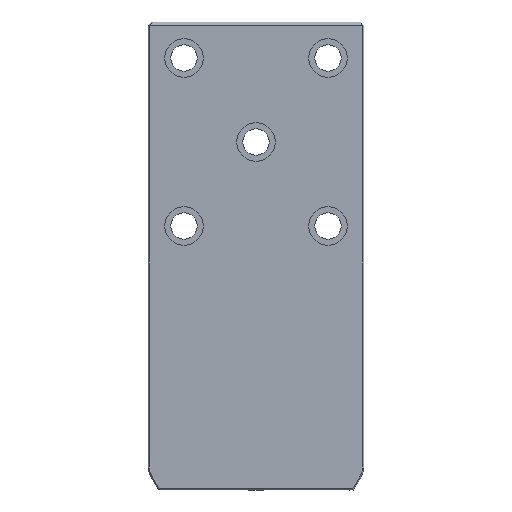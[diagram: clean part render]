
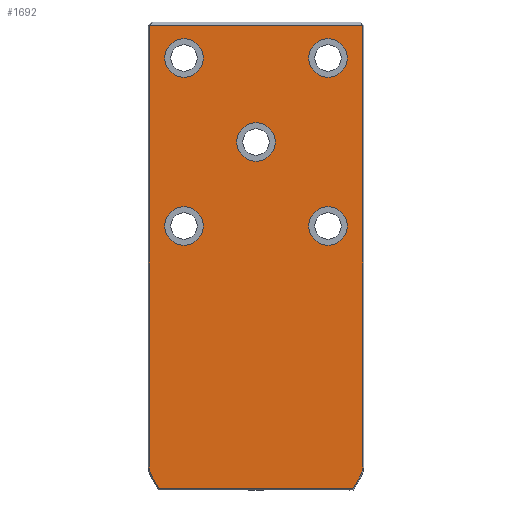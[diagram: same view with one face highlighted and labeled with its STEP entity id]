
A CAD part, front view. The second image highlights one B-rep face of the part: STEP entity #1692.
In plain terms, the highlighted planar face has unit normal (0, -1, 0).
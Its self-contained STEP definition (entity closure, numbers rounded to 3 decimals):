
#109=VERTEX_POINT(' ',#110);
#110=CARTESIAN_POINT('',(60.,-55.,-186.));
#111=VERTEX_POINT(' ',#112);
#112=CARTESIAN_POINT('',(60.,-55.,-154.));
#117=VERTEX_POINT(' ',#118);
#118=CARTESIAN_POINT('',(-60.,-55.,-46.));
#119=VERTEX_POINT(' ',#120);
#120=CARTESIAN_POINT('',(-60.,-55.,-14.));
#137=VERTEX_POINT(' ',#138);
#138=CARTESIAN_POINT('',(-60.,-55.,-186.));
#139=VERTEX_POINT(' ',#140);
#140=CARTESIAN_POINT('',(-60.,-55.,-154.));
#145=VERTEX_POINT(' ',#146);
#146=CARTESIAN_POINT('',(60.,-55.,-46.));
#147=VERTEX_POINT(' ',#148);
#148=CARTESIAN_POINT('',(60.,-55.,-14.));
#161=VERTEX_POINT(' ',#162);
#162=CARTESIAN_POINT('',(0.,-55.,-116.));
#163=VERTEX_POINT(' ',#164);
#164=CARTESIAN_POINT('',(0.,-55.,-84.));
#169=VERTEX_POINT(' ',#170);
#170=CARTESIAN_POINT('',(80.762,-55.,-389.));
#175=VERTEX_POINT(' ',#176);
#176=CARTESIAN_POINT('',(86.454,-55.,-379.141));
#179=VERTEX_POINT(' ',#180);
#180=CARTESIAN_POINT('',(89.,-55.,-369.641));
#183=VERTEX_POINT(' ',#184);
#184=CARTESIAN_POINT('',(89.,-55.,-200.));
#187=VERTEX_POINT(' ',#188);
#188=CARTESIAN_POINT('',(89.,-55.,-3.));
#193=VERTEX_POINT(' ',#194);
#194=CARTESIAN_POINT('',(-88.775,-55.,-3.));
#197=VERTEX_POINT(' ',#198);
#198=CARTESIAN_POINT('',(-89.,-55.,-3.112));
#203=VERTEX_POINT(' ',#204);
#204=CARTESIAN_POINT('',(-80.762,-55.,-389.));
#207=VERTEX_POINT(' ',#208);
#208=CARTESIAN_POINT('',(-89.,-55.,-200.));
#209=VERTEX_POINT(' ',#210);
#210=CARTESIAN_POINT('',(-89.,-55.,-369.641));
#211=VERTEX_POINT(' ',#212);
#212=CARTESIAN_POINT('',(-86.454,-55.,-379.141));
#379=CIRCLE('',#380,16.);
#380=AXIS2_PLACEMENT_3D('',#381,#382,#383);
#381=CARTESIAN_POINT('',(60.,-55.,-170.));
#382=DIRECTION('',(0.,1.,0.));
#383=DIRECTION('',(-1.,0.,0.));
#384=EDGE_CURVE(' ',#109,#111,#379,.F.);
#395=CIRCLE('',#396,16.);
#396=AXIS2_PLACEMENT_3D('',#397,#398,#399);
#397=CARTESIAN_POINT('',(60.,-55.,-170.));
#398=DIRECTION('',(0.,1.,0.));
#399=DIRECTION('',(1.,0.,0.));
#400=EDGE_CURVE(' ',#111,#109,#395,.F.);
#413=CIRCLE('',#414,16.);
#414=AXIS2_PLACEMENT_3D('',#415,#416,#417);
#415=CARTESIAN_POINT('',(-60.,-55.,-30.));
#416=DIRECTION('',(0.,1.,0.));
#417=DIRECTION('',(-1.,0.,0.));
#418=EDGE_CURVE(' ',#117,#119,#413,.F.);
#429=CIRCLE('',#430,16.);
#430=AXIS2_PLACEMENT_3D('',#431,#432,#433);
#431=CARTESIAN_POINT('',(-60.,-55.,-30.));
#432=DIRECTION('',(0.,1.,0.));
#433=DIRECTION('',(1.,0.,0.));
#434=EDGE_CURVE(' ',#119,#117,#429,.F.);
#503=CIRCLE('',#504,16.);
#504=AXIS2_PLACEMENT_3D('',#505,#506,#507);
#505=CARTESIAN_POINT('',(-60.,-55.,-170.));
#506=DIRECTION('',(0.,1.,0.));
#507=DIRECTION('',(-1.,0.,0.));
#508=EDGE_CURVE(' ',#137,#139,#503,.F.);
#525=CIRCLE('',#526,16.);
#526=AXIS2_PLACEMENT_3D('',#527,#528,#529);
#527=CARTESIAN_POINT('',(-60.,-55.,-170.));
#528=DIRECTION('',(0.,1.,0.));
#529=DIRECTION('',(1.,0.,0.));
#530=EDGE_CURVE(' ',#139,#137,#525,.F.);
#537=CIRCLE('',#538,16.);
#538=AXIS2_PLACEMENT_3D('',#539,#540,#541);
#539=CARTESIAN_POINT('',(60.,-55.,-30.));
#540=DIRECTION('',(0.,1.,0.));
#541=DIRECTION('',(-1.,0.,0.));
#542=EDGE_CURVE(' ',#145,#147,#537,.F.);
#559=CIRCLE('',#560,16.);
#560=AXIS2_PLACEMENT_3D('',#561,#562,#563);
#561=CARTESIAN_POINT('',(60.,-55.,-30.));
#562=DIRECTION('',(0.,1.,0.));
#563=DIRECTION('',(1.,0.,0.));
#564=EDGE_CURVE(' ',#147,#145,#559,.F.);
#605=CIRCLE('',#606,16.);
#606=AXIS2_PLACEMENT_3D('',#607,#608,#609);
#607=CARTESIAN_POINT('',(0.,-55.,-100.));
#608=DIRECTION('',(0.,1.,0.));
#609=DIRECTION('',(-1.,0.,0.));
#610=EDGE_CURVE(' ',#161,#163,#605,.F.);
#627=CIRCLE('',#628,16.);
#628=AXIS2_PLACEMENT_3D('',#629,#630,#631);
#629=CARTESIAN_POINT('',(0.,-55.,-100.));
#630=DIRECTION('',(0.,1.,0.));
#631=DIRECTION('',(1.,0.,0.));
#632=EDGE_CURVE(' ',#163,#161,#627,.F.);
#654=LINE('',#655,#656);
#655=CARTESIAN_POINT('',(86.454,-55.,-379.141));
#656=VECTOR('',#657,1.);
#657=DIRECTION('',(-0.5,0.,-0.866));
#658=EDGE_CURVE(' ',#175,#169,#654,.T.);
#670=CIRCLE('',#671,19.);
#671=AXIS2_PLACEMENT_3D('',#672,#673,#674);
#672=CARTESIAN_POINT('',(70.,-55.,-369.641));
#673=DIRECTION('',(0.,1.,0.));
#674=DIRECTION('',(-0.966,0.,0.259));
#675=EDGE_CURVE(' ',#179,#175,#670,.T.);
#681=LINE('',#682,#683);
#682=CARTESIAN_POINT('',(89.,-55.,-200.));
#683=VECTOR('',#684,1.);
#684=DIRECTION('',(0.,0.,-1.));
#685=EDGE_CURVE(' ',#183,#179,#681,.T.);
#696=LINE('',#697,#698);
#697=CARTESIAN_POINT('',(89.,-55.,2.657));
#698=VECTOR('',#699,1.);
#699=DIRECTION('',(0.,0.,-1.));
#700=EDGE_CURVE(' ',#187,#183,#696,.T.);
#721=LINE('',#722,#723);
#722=CARTESIAN_POINT('',(-106.971,-55.,-3.));
#723=VECTOR('',#724,1.);
#724=DIRECTION('',(1.,0.,0.));
#725=EDGE_CURVE(' ',#193,#187,#721,.T.);
#736=LINE('',#737,#738);
#737=CARTESIAN_POINT('',(-16.555,-55.,33.11));
#738=VECTOR('',#739,1.);
#739=DIRECTION('',(-0.894,0.,-0.447));
#740=EDGE_CURVE(' ',#197,#193,#736,.F.);
#766=LINE('',#767,#768);
#767=CARTESIAN_POINT('',(-90.12,-55.,-389.));
#768=VECTOR('',#769,1.);
#769=DIRECTION('',(1.,0.,0.));
#770=EDGE_CURVE(' ',#203,#169,#766,.T.);
#771=LINE('',#772,#773);
#772=CARTESIAN_POINT('',(-89.,-55.,-200.));
#773=VECTOR('',#774,1.);
#774=DIRECTION('',(0.,0.,1.));
#775=EDGE_CURVE(' ',#207,#197,#771,.T.);
#776=LINE('',#777,#778);
#777=CARTESIAN_POINT('',(-89.,-55.,-369.641));
#778=VECTOR('',#779,1.);
#779=DIRECTION('',(0.,0.,1.));
#780=EDGE_CURVE(' ',#209,#207,#776,.T.);
#781=CIRCLE('',#782,19.);
#782=AXIS2_PLACEMENT_3D('',#783,#784,#785);
#783=CARTESIAN_POINT('',(-70.,-55.,-369.641));
#784=DIRECTION('',(0.,1.,0.));
#785=DIRECTION('',(0.966,0.,0.259));
#786=EDGE_CURVE(' ',#211,#209,#781,.T.);
#787=LINE('',#788,#789);
#788=CARTESIAN_POINT('',(-77.934,-55.,-393.899));
#789=VECTOR('',#790,1.);
#790=DIRECTION('',(-0.5,0.,0.866));
#791=EDGE_CURVE(' ',#203,#211,#787,.T.);
#1654=ORIENTED_EDGE('',*,*,#775,.F.);
#1655=ORIENTED_EDGE('',*,*,#780,.F.);
#1656=ORIENTED_EDGE('',*,*,#786,.F.);
#1657=ORIENTED_EDGE('',*,*,#791,.F.);
#1658=ORIENTED_EDGE('',*,*,#770,.T.);
#1659=ORIENTED_EDGE('',*,*,#658,.F.);
#1660=ORIENTED_EDGE('',*,*,#675,.F.);
#1661=ORIENTED_EDGE('',*,*,#685,.F.);
#1662=ORIENTED_EDGE('',*,*,#700,.F.);
#1663=ORIENTED_EDGE('',*,*,#725,.F.);
#1664=ORIENTED_EDGE('',*,*,#740,.F.);
#1665=EDGE_LOOP('',(#1654,#1655,#1656,#1657,#1658,#1659,#1660,#1661,#1662,#1663,#1664));
#1666=FACE_OUTER_BOUND('',#1665,.T.);
#1667=ORIENTED_EDGE('',*,*,#632,.F.);
#1668=ORIENTED_EDGE('',*,*,#610,.F.);
#1669=EDGE_LOOP('',(#1667,#1668));
#1670=FACE_BOUND('',#1669,.T.);
#1671=ORIENTED_EDGE('',*,*,#564,.F.);
#1672=ORIENTED_EDGE('',*,*,#542,.F.);
#1673=EDGE_LOOP('',(#1671,#1672));
#1674=FACE_BOUND('',#1673,.T.);
#1675=ORIENTED_EDGE('',*,*,#530,.F.);
#1676=ORIENTED_EDGE('',*,*,#508,.F.);
#1677=EDGE_LOOP('',(#1675,#1676));
#1678=FACE_BOUND('',#1677,.T.);
#1679=ORIENTED_EDGE('',*,*,#434,.F.);
#1680=ORIENTED_EDGE('',*,*,#418,.F.);
#1681=EDGE_LOOP('',(#1679,#1680));
#1682=FACE_BOUND('',#1681,.T.);
#1683=ORIENTED_EDGE('',*,*,#400,.F.);
#1684=ORIENTED_EDGE('',*,*,#384,.F.);
#1685=EDGE_LOOP('',(#1683,#1684));
#1686=FACE_BOUND('',#1685,.T.);
#1687=PLANE('',#1688);
#1688=AXIS2_PLACEMENT_3D('',#1689,#1690,#1691);
#1689=CARTESIAN_POINT('',(0.,-55.,0.));
#1690=DIRECTION('',(0.,-1.,0.));
#1691=DIRECTION('',(0.,0.,-1.));
#1692=ADVANCED_FACE('',(#1666,#1670,#1674,#1678,#1682,#1686),#1687,.T.);
